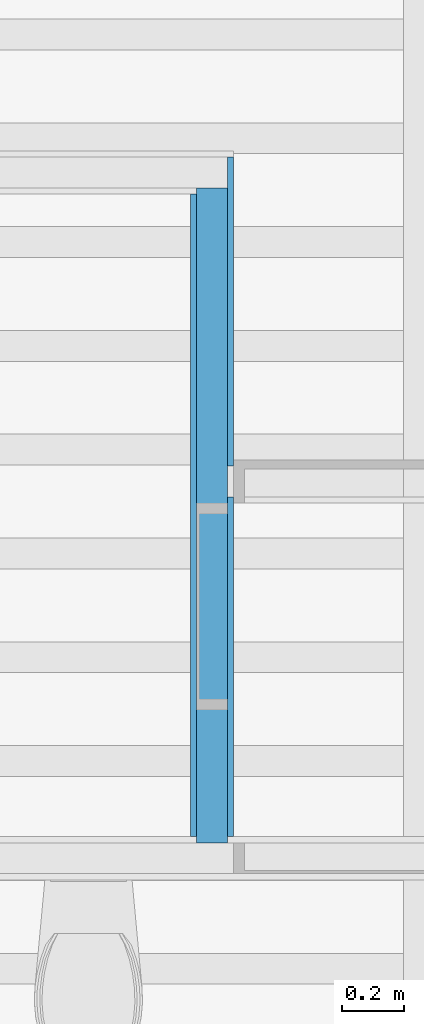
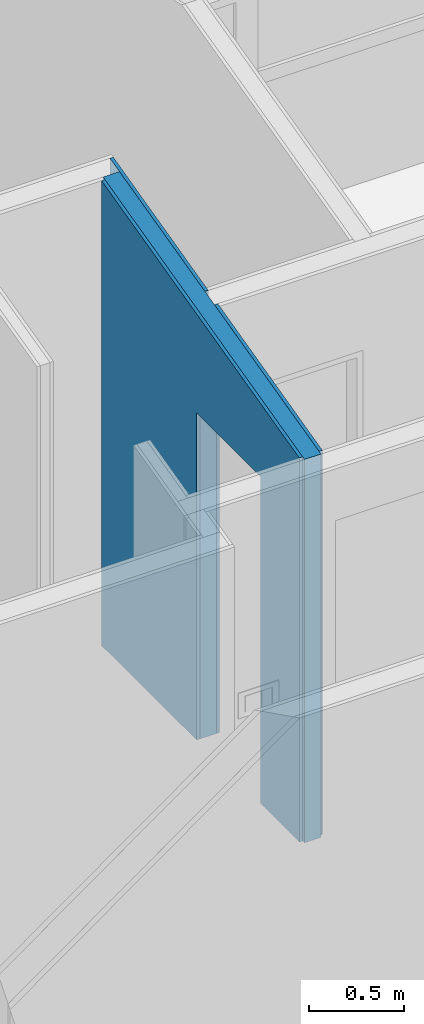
# One storey, part 2 of 13: 3 building element parts, 1 opening, 1 element without a shape of its own.
"""IFC2X3 building model written with IfcOpenShell, lengths in millimetres."""

from ifc_helpers import new_model, entity, si_unit, converted_unit, derived_unit, money_unit, direction, frame, origin_with_axes, origin_2d_with_axis, place, context, subcontext, project, spatial, polyline, rectangle, outline, extrude, boolean, faceted_brep, material, type_object, element, aggregate, save


model = new_model("IFC2X3")

# Units and contexts
model_context = context("Model", 3, precision=0.01, world=origin_with_axes(), true_north=direction((0.293984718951, 0.955810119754)))
body_context = subcontext(model_context, "Body", "Model", "MODEL_VIEW")
ifc_project = project(units=[si_unit("LENGTHUNIT", "METRE", prefix="MILLI"), si_unit("AREAUNIT", "SQUARE_METRE"), si_unit("VOLUMEUNIT", "CUBIC_METRE"), converted_unit("PLANEANGLEUNIT", "DEGREE", entity("IfcPlaneAngleMeasure", 0.0174532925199), si_unit("PLANEANGLEUNIT", "RADIAN"), dimensions=[0, 0, 0, 0, 0, 0, 0]), si_unit("SOLIDANGLEUNIT", "STERADIAN"), money_unit("USD"), converted_unit("TIMEUNIT", "Year", entity("IfcTimeMeasure", 31556926.0), si_unit("TIMEUNIT", "SECOND"), dimensions=[0, 0, 1, 0, 0, 0, 0]), si_unit("MASSUNIT", "GRAM", prefix="KILO"), si_unit("THERMODYNAMICTEMPERATUREUNIT", "DEGREE_CELSIUS"), si_unit("LUMINOUSINTENSITYUNIT", "LUMEN"), si_unit("ENERGYUNIT", "JOULE", prefix="MEGA"), derived_unit("THERMALCONDUCTANCEUNIT", [(si_unit("POWERUNIT", "WATT"), 1), (si_unit("LENGTHUNIT", "METRE"), -1), (si_unit("THERMODYNAMICTEMPERATUREUNIT", "KELVIN"), -1)]), derived_unit("SPECIFICHEATCAPACITYUNIT", [(si_unit("ENERGYUNIT", "JOULE"), 1), (si_unit("MASSUNIT", "GRAM", prefix="KILO"), -1), (si_unit("THERMODYNAMICTEMPERATUREUNIT", "KELVIN"), -1)]), derived_unit("MASSDENSITYUNIT", [(si_unit("MASSUNIT", "GRAM", prefix="KILO"), 1), (si_unit("VOLUMEUNIT", "CUBIC_METRE"), -1)])], contexts=[model_context])

# Site, building, storey
site_placement = place(None, origin_with_axes())
site = spatial("IfcSite", under=ifc_project, at=site_placement, Name="Local", CompositionType="ELEMENT")
building_placement = place(site_placement, origin_with_axes())
building = spatial("IfcBuilding", under=site, at=building_placement, Name="Construção", CompositionType="ELEMENT")
storey_placement = place(building_placement, frame((0.0, 0.0, 3050.0), z_axis=(0.0, 0.0, 1.0), x_axis=(1.0, 0.0, 0.0)))
storey = spatial("IfcBuildingStorey", under=building, at=storey_placement, Name="Primeiro Pavimento", CompositionType="ELEMENT", Elevation=3050.0)

# Wall, opening, building element parts
wall_type = type_object("IfcWallType", Name="Alvenaria Tijolo Maciço com Revestimento 14cm 140", PredefinedType="NOTDEFINED")
wall_placement = place(storey_placement, frame((9749.64507267, 7730.63219788, 0.0), z_axis=(0.0, 0.0, 1.0), x_axis=(0.0, 1.0, 0.0)))
wall = element("IfcWall", 1, at=wall_placement, inside=storey, type_object=wall_type, Name="Parede")
opening_placement = place(wall_placement, frame((815.0, 0.0, 0.0), z_axis=(0.0, 0.0, 1.0), x_axis=(1.0, 0.0, 0.0)))
element("IfcOpeningElement", 2, at=opening_placement, cuts=wall, Name="P14", context=body_context, shape_type="SweptSolid", body=[
    extrude(rectangle(XDim=670.0, YDim=2100.0, at=origin_2d_with_axis()), frame((0.0, -140.0, 1050.0), z_axis=(0.0, 1.0, 0.0), x_axis=(1.0, 0.0, 0.0)), (0.0, 0.0, 1.0), 420.0),
])
ifc_material_1 = material(Name="Reboco (1)")
building_element_part_1_placement = place(wall_placement, origin_with_axes())
building_element_part_1 = element("IfcBuildingElementPart", 3, at=building_element_part_1_placement, material=ifc_material_1, Name="Reboco (1)", context=body_context, shape_type="CSG", body=[
    boolean("DIFFERENCE", boolean("DIFFERENCE", boolean("DIFFERENCE", extrude(outline(polyline([(-70.0, -70.0), (2290.0, -70.0), (2290.0, -50.0), (-70.0, -50.0), (-70.0, -70.0)])), origin_with_axes(), (0.0, 0.0, 1.0), 3211.87314734), faceted_brep([(1270.0, -70.0, 0.0), (1270.0, -70.0, 2766.40521217), (2270.0, -70.0, 3015.73321501), (2270.0, -70.0, 0.0), (2290.0, -70.0, 0.0), (2290.0, -70.0, 3211.87314734), (-70.0, -70.0, 3211.87314734), (-70.0, -70.0, 0.0), (70.0, -70.0, 0.0), (70.0, -70.0, 2467.21160876), (1170.0, -70.0, 2741.47241189), (1170.0, -70.0, 0.0), (1270.0, -50.0, 0.0), (1270.0, -50.0, 2766.40521217), (2270.0, -50.0, 3015.73321501), (2270.0, -50.0, 0.0), (2290.0, -50.0, 0.0), (2290.0, -50.0, 3211.87314734), (-70.0, -50.0, 3211.87314734), (-70.0, -50.0, 0.0), (70.0, -50.0, 0.0), (70.0, -50.0, 2467.21160876), (1170.0, -50.0, 2741.47241189), (1170.0, -50.0, 0.0)], [[[0, 1, 2, 3, 4, 5, 6, 7, 8, 9, 10, 11]], [[1, 0, 12, 13]], [[2, 1, 13, 14]], [[3, 2, 14, 15]], [[3, 15, 16, 4]], [[5, 4, 16, 17]], [[18, 6, 5, 17]], [[18, 19, 7, 6]], [[20, 8, 7, 19]], [[9, 8, 20, 21]], [[10, 9, 21, 22]], [[11, 10, 22, 23]], [[12, 0, 11, 23]], [[13, 12, 23, 22, 21, 20, 19, 18, 17, 16, 15, 14]]])), faceted_brep([(2170.0, -50.0, 2990.80041473), (2170.0, -50.0, 0.0), (2290.0, -50.0, 0.0), (2290.0, -50.0, 3211.87314734), (-70.0, -50.0, 3211.87314734), (-70.0, -50.0, 0.0), (50.0, -50.0, 0.0), (50.0, -50.0, 2462.2250487), (2170.0, 50.0, 2990.80041473), (2170.0, 50.0, 0.0), (2290.0, 50.0, 0.0), (2290.0, 50.0, 3211.87314734), (-70.0, 50.0, 3211.87314734), (-70.0, 50.0, 0.0), (50.0, 50.0, 0.0), (50.0, 50.0, 2462.2250487)], [[[0, 1, 2, 3, 4, 5, 6, 7]], [[1, 0, 8, 9]], [[1, 9, 10, 2]], [[3, 2, 10, 11]], [[12, 4, 3, 11]], [[12, 13, 5, 4]], [[14, 6, 5, 13]], [[7, 6, 14, 15]], [[0, 7, 15, 8]], [[15, 14, 13, 12, 11, 10, 9, 8]]])), faceted_brep([(70.0, 50.0, 0.0), (70.0, 50.0, 2467.21160876), (2150.0, 50.0, 2985.81385467), (2150.0, 50.0, 0.0), (2290.0, 50.0, 0.0), (2290.0, 50.0, 3211.87314734), (-70.0, 50.0, 3211.87314734), (-70.0, 50.0, 0.0), (70.0, 70.0, 0.0), (70.0, 70.0, 2467.21160876), (2150.0, 70.0, 2985.81385467), (2150.0, 70.0, 0.0), (2290.0, 70.0, 0.0), (2290.0, 70.0, 3211.87314734), (-70.0, 70.0, 3211.87314734), (-70.0, 70.0, 0.0)], [[[0, 1, 2, 3, 4, 5, 6, 7]], [[1, 0, 8, 9]], [[9, 10, 2, 1]], [[3, 2, 10, 11]], [[3, 11, 12, 4]], [[5, 4, 12, 13]], [[14, 6, 5, 13]], [[14, 15, 7, 6]], [[8, 0, 7, 15]], [[9, 8, 15, 14, 13, 12, 11, 10]]])),
])
ifc_material_2 = material(Name="Tijolo - Estrutural (1)")
building_element_part_2_placement = place(wall_placement, origin_with_axes())
building_element_part_2 = element("IfcBuildingElementPart", 4, at=building_element_part_2_placement, material=ifc_material_2, Name="Tijolo - Estrutural (1)", context=body_context, shape_type="CSG", body=[
    boolean("DIFFERENCE", boolean("DIFFERENCE", boolean("DIFFERENCE", extrude(outline(polyline([(-70.0, -50.0), (2290.0, -50.0), (2290.0, 50.0), (-70.0, 50.0), (-70.0, -50.0)])), origin_with_axes(), (0.0, 0.0, 1.0), 3211.87314734), faceted_brep([(1270.0, -70.0, 0.0), (1270.0, -70.0, 2766.40521217), (2270.0, -70.0, 3015.73321501), (2270.0, -70.0, 0.0), (2290.0, -70.0, 0.0), (2290.0, -70.0, 3211.87314734), (-70.0, -70.0, 3211.87314734), (-70.0, -70.0, 0.0), (70.0, -70.0, 0.0), (70.0, -70.0, 2467.21160876), (1170.0, -70.0, 2741.47241189), (1170.0, -70.0, 0.0), (1270.0, -50.0, 0.0), (1270.0, -50.0, 2766.40521217), (2270.0, -50.0, 3015.73321501), (2270.0, -50.0, 0.0), (2290.0, -50.0, 0.0), (2290.0, -50.0, 3211.87314734), (-70.0, -50.0, 3211.87314734), (-70.0, -50.0, 0.0), (70.0, -50.0, 0.0), (70.0, -50.0, 2467.21160876), (1170.0, -50.0, 2741.47241189), (1170.0, -50.0, 0.0)], [[[0, 1, 2, 3, 4, 5, 6, 7, 8, 9, 10, 11]], [[1, 0, 12, 13]], [[2, 1, 13, 14]], [[3, 2, 14, 15]], [[3, 15, 16, 4]], [[5, 4, 16, 17]], [[18, 6, 5, 17]], [[18, 19, 7, 6]], [[20, 8, 7, 19]], [[9, 8, 20, 21]], [[10, 9, 21, 22]], [[11, 10, 22, 23]], [[12, 0, 11, 23]], [[13, 12, 23, 22, 21, 20, 19, 18, 17, 16, 15, 14]]])), faceted_brep([(2170.0, -50.0, 2990.80041473), (2170.0, -50.0, 0.0), (2290.0, -50.0, 0.0), (2290.0, -50.0, 3211.87314734), (-70.0, -50.0, 3211.87314734), (-70.0, -50.0, 0.0), (50.0, -50.0, 0.0), (50.0, -50.0, 2462.2250487), (2170.0, 50.0, 2990.80041473), (2170.0, 50.0, 0.0), (2290.0, 50.0, 0.0), (2290.0, 50.0, 3211.87314734), (-70.0, 50.0, 3211.87314734), (-70.0, 50.0, 0.0), (50.0, 50.0, 0.0), (50.0, 50.0, 2462.2250487)], [[[0, 1, 2, 3, 4, 5, 6, 7]], [[1, 0, 8, 9]], [[1, 9, 10, 2]], [[3, 2, 10, 11]], [[12, 4, 3, 11]], [[12, 13, 5, 4]], [[14, 6, 5, 13]], [[7, 6, 14, 15]], [[0, 7, 15, 8]], [[15, 14, 13, 12, 11, 10, 9, 8]]])), faceted_brep([(70.0, 50.0, 0.0), (70.0, 50.0, 2467.21160876), (2150.0, 50.0, 2985.81385467), (2150.0, 50.0, 0.0), (2290.0, 50.0, 0.0), (2290.0, 50.0, 3211.87314734), (-70.0, 50.0, 3211.87314734), (-70.0, 50.0, 0.0), (70.0, 70.0, 0.0), (70.0, 70.0, 2467.21160876), (2150.0, 70.0, 2985.81385467), (2150.0, 70.0, 0.0), (2290.0, 70.0, 0.0), (2290.0, 70.0, 3211.87314734), (-70.0, 70.0, 3211.87314734), (-70.0, 70.0, 0.0)], [[[0, 1, 2, 3, 4, 5, 6, 7]], [[1, 0, 8, 9]], [[9, 10, 2, 1]], [[3, 2, 10, 11]], [[3, 11, 12, 4]], [[5, 4, 12, 13]], [[14, 6, 5, 13]], [[14, 15, 7, 6]], [[8, 0, 7, 15]], [[9, 8, 15, 14, 13, 12, 11, 10]]])),
])
building_element_part_3_placement = place(wall_placement, origin_with_axes())
building_element_part_3 = element("IfcBuildingElementPart", 5, at=building_element_part_3_placement, material=ifc_material_1, Name="Reboco (1)", context=body_context, shape_type="CSG", body=[
    boolean("DIFFERENCE", boolean("DIFFERENCE", boolean("DIFFERENCE", extrude(outline(polyline([(-70.0, 50.0), (2290.0, 50.0), (2290.0, 70.0), (-70.0, 70.0), (-70.0, 50.0)])), origin_with_axes(), (0.0, 0.0, 1.0), 3211.87314734), faceted_brep([(1270.0, -70.0, 0.0), (1270.0, -70.0, 2766.40521217), (2270.0, -70.0, 3015.73321501), (2270.0, -70.0, 0.0), (2290.0, -70.0, 0.0), (2290.0, -70.0, 3211.87314734), (-70.0, -70.0, 3211.87314734), (-70.0, -70.0, 0.0), (70.0, -70.0, 0.0), (70.0, -70.0, 2467.21160876), (1170.0, -70.0, 2741.47241189), (1170.0, -70.0, 0.0), (1270.0, -50.0, 0.0), (1270.0, -50.0, 2766.40521217), (2270.0, -50.0, 3015.73321501), (2270.0, -50.0, 0.0), (2290.0, -50.0, 0.0), (2290.0, -50.0, 3211.87314734), (-70.0, -50.0, 3211.87314734), (-70.0, -50.0, 0.0), (70.0, -50.0, 0.0), (70.0, -50.0, 2467.21160876), (1170.0, -50.0, 2741.47241189), (1170.0, -50.0, 0.0)], [[[0, 1, 2, 3, 4, 5, 6, 7, 8, 9, 10, 11]], [[1, 0, 12, 13]], [[2, 1, 13, 14]], [[3, 2, 14, 15]], [[3, 15, 16, 4]], [[5, 4, 16, 17]], [[18, 6, 5, 17]], [[18, 19, 7, 6]], [[20, 8, 7, 19]], [[9, 8, 20, 21]], [[10, 9, 21, 22]], [[11, 10, 22, 23]], [[12, 0, 11, 23]], [[13, 12, 23, 22, 21, 20, 19, 18, 17, 16, 15, 14]]])), faceted_brep([(2170.0, -50.0, 2990.80041473), (2170.0, -50.0, 0.0), (2290.0, -50.0, 0.0), (2290.0, -50.0, 3211.87314734), (-70.0, -50.0, 3211.87314734), (-70.0, -50.0, 0.0), (50.0, -50.0, 0.0), (50.0, -50.0, 2462.2250487), (2170.0, 50.0, 2990.80041473), (2170.0, 50.0, 0.0), (2290.0, 50.0, 0.0), (2290.0, 50.0, 3211.87314734), (-70.0, 50.0, 3211.87314734), (-70.0, 50.0, 0.0), (50.0, 50.0, 0.0), (50.0, 50.0, 2462.2250487)], [[[0, 1, 2, 3, 4, 5, 6, 7]], [[1, 0, 8, 9]], [[1, 9, 10, 2]], [[3, 2, 10, 11]], [[12, 4, 3, 11]], [[12, 13, 5, 4]], [[14, 6, 5, 13]], [[7, 6, 14, 15]], [[0, 7, 15, 8]], [[15, 14, 13, 12, 11, 10, 9, 8]]])), faceted_brep([(70.0, 50.0, 0.0), (70.0, 50.0, 2467.21160876), (2150.0, 50.0, 2985.81385467), (2150.0, 50.0, 0.0), (2290.0, 50.0, 0.0), (2290.0, 50.0, 3211.87314734), (-70.0, 50.0, 3211.87314734), (-70.0, 50.0, 0.0), (70.0, 70.0, 0.0), (70.0, 70.0, 2467.21160876), (2150.0, 70.0, 2985.81385467), (2150.0, 70.0, 0.0), (2290.0, 70.0, 0.0), (2290.0, 70.0, 3211.87314734), (-70.0, 70.0, 3211.87314734), (-70.0, 70.0, 0.0)], [[[0, 1, 2, 3, 4, 5, 6, 7]], [[1, 0, 8, 9]], [[9, 10, 2, 1]], [[3, 2, 10, 11]], [[3, 11, 12, 4]], [[5, 4, 12, 13]], [[14, 6, 5, 13]], [[14, 15, 7, 6]], [[8, 0, 7, 15]], [[9, 8, 15, 14, 13, 12, 11, 10]]])),
])
aggregate(wall, [building_element_part_1, building_element_part_2, building_element_part_3])

save(model, "model.ifc")
